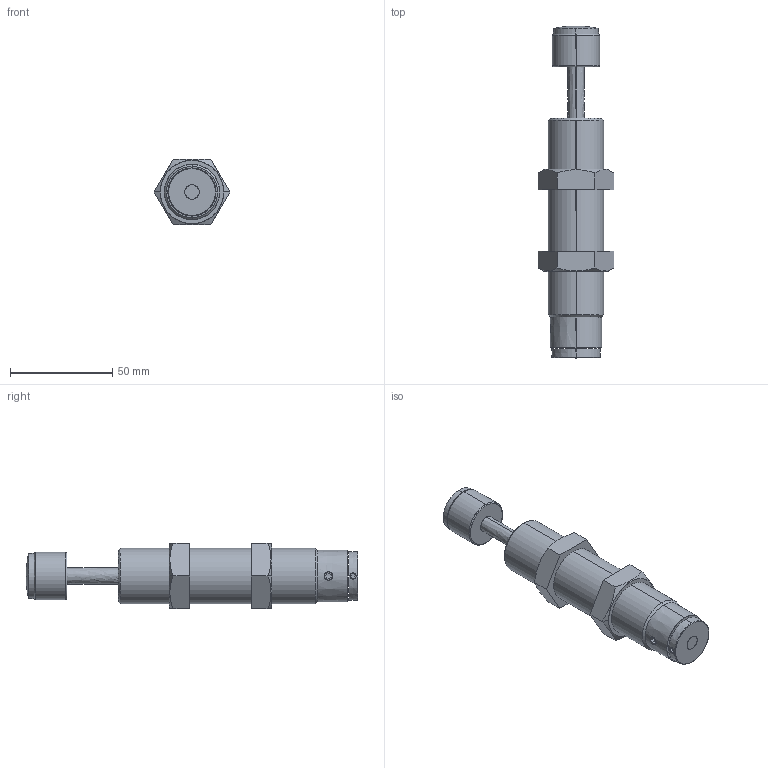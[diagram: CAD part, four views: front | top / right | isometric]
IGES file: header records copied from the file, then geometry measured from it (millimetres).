
Start section: SolidWorks IGES file using analytic representation for surfaces
Bounding box: 36.95 x 162.2 x 32 mm (x, y, z)
Surface area: 18514.4 mm2 (no closed solid volume)
Topology: 0 solids, 0 shells, 95 faces, 1624 edges, 1623 vertices
Faces by surface type: revolution 50, bspline 45
